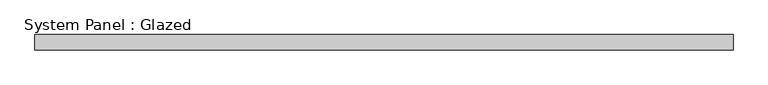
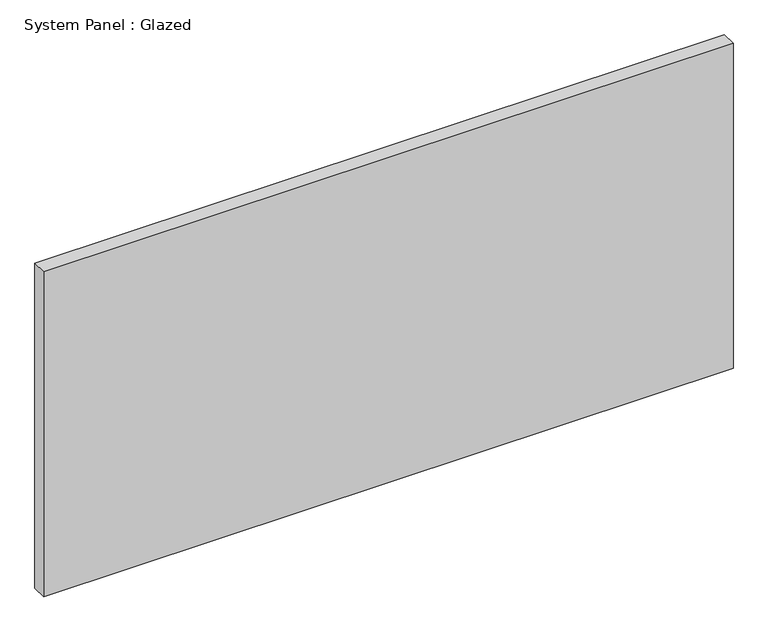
"""IFC4 building model written with IfcOpenShell, lengths in millimetres: plate geometry, System Panel : Glazed."""

import ifcopenshell
import ifcopenshell.guid

model = None  # the IFC model being written
_history = None  # IfcOwnerHistory: only IFC2X3 demands one
_inside = {}  # id of a spatial element -> (the spatial element, [elements in it])
_under = {}  # id of a project, library or spatial element -> (it, [spatial elements below it])
_declared = {}  # id of a project -> (the project, [libraries it declares])
_typed = {}  # id of a type object -> (the type object, [elements of that type])
_made_of = {}  # id of a material, layer set ... -> (it, [elements and type objects made of it])


def new_model(schema):
    """Start an empty IFC model of exactly this schema.

    Asked for "IFC4X3", IfcOpenShell would pick the latest addendum, in which some entities
    have other attributes; the version numbers below select the first issue.
    IFC2X3 requires an IfcOwnerHistory on every rooted entity: one is made here for all.
    """
    global model, _history
    if schema == "IFC4X3":
        model = ifcopenshell.file(schema_version=(4, 3, 0, 0))
    else:
        model = ifcopenshell.file(schema=schema)
    _inside.clear()
    _under.clear()
    _declared.clear()
    _typed.clear()
    _made_of.clear()
    _history = None
    if model.schema == "IFC2X3":
        org = make("IfcOrganization", Name="unknown")
        user = make(
            "IfcPersonAndOrganization",
            ThePerson=make("IfcPerson", FamilyName="unknown"),
            TheOrganization=org,
        )
        app = make(
            "IfcApplication",
            ApplicationDeveloper=org,
            Version="unknown",
            ApplicationFullName="unknown",
            ApplicationIdentifier="unknown",
        )
        _history = make(
            "IfcOwnerHistory",
            OwningUser=user,
            OwningApplication=app,
            ChangeAction="ADDED",
            CreationDate=0,
        )
    return model


def make(cls, **values):
    """One entity of the class cls with the attributes given. An attribute that is None is left unset."""
    return model.create_entity(
        cls, **{name: value for name, value in values.items() if value is not None}
    )


def rooted(cls, **values):
    """An entity with a GlobalId (a new one), such as an element, a storey or a relation."""
    return make(cls, GlobalId=ifcopenshell.guid.new(), OwnerHistory=_history, **values)


def si_unit(unit_type, name, prefix=None):
    """IfcSIUnit, for example si_unit("LENGTHUNIT", "METRE", prefix="MILLI")."""
    return make("IfcSIUnit", UnitType=unit_type, Prefix=prefix, Name=name)


def assignment(units):
    """IfcUnitAssignment: the units of a project."""
    return None if units is None else make("IfcUnitAssignment", Units=units)


def point(xyz):
    """IfcCartesianPoint."""
    return None if xyz is None else make("IfcCartesianPoint", Coordinates=xyz)


def direction(xyz):
    """IfcDirection."""
    return None if xyz is None else make("IfcDirection", DirectionRatios=xyz)


def frame(location, z_axis=None, x_axis=None):
    """IfcAxis2Placement3D, a coordinate frame: its origin and axes. An axis left out is left unset."""
    return make(
        "IfcAxis2Placement3D",
        Location=point(location),
        Axis=direction(z_axis),
        RefDirection=direction(x_axis),
    )


def origin():
    """The frame at (0, 0, 0) with its axes left unset."""
    return frame((0.0, 0.0, 0.0))


def origin_with_axes():
    """The frame at (0, 0, 0) with the z axis (0, 0, 1) and the x axis (1, 0, 0) written out."""
    return frame((0.0, 0.0, 0.0), z_axis=(0.0, 0.0, 1.0), x_axis=(1.0, 0.0, 0.0))


def place(relative_to, where):
    """IfcLocalPlacement: puts the frame where relative to a parent placement (None: the world)."""
    return make(
        "IfcLocalPlacement", PlacementRelTo=relative_to, RelativePlacement=where
    )


def context(
    kind, dimensions, precision=None, world=None, true_north=None, identifier=None
):
    """IfcGeometricRepresentationContext, for example the 3D "Model" context."""
    return make(
        "IfcGeometricRepresentationContext",
        ContextIdentifier=identifier,
        ContextType=kind,
        CoordinateSpaceDimension=dimensions,
        Precision=precision,
        WorldCoordinateSystem=world,
        TrueNorth=true_north,
    )


def project(units=None, contexts=None):
    """IfcProject with its units and contexts."""
    return rooted(
        "IfcProject",
        Name="project",
        RepresentationContexts=contexts,
        UnitsInContext=assignment(units),
    )


def spatial(cls, under=None, at=None, **own):
    """A site, building, storey or space (cls), placed at a placement, below another one or the project."""
    s = rooted(cls, ObjectPlacement=at, **own)
    if under is not None:
        _under.setdefault(under.id(), (under, []))[1].append(s)
    return s


def polyline(points):
    """IfcPolyline through the points."""
    return make("IfcPolyline", Points=[point(p) for p in points])


def outline(outer, holes=None, kind="AREA"):
    """IfcArbitraryClosedProfileDef: a profile drawn as a closed curve; with holes, ...WithVoids."""
    if holes is None:
        return make("IfcArbitraryClosedProfileDef", ProfileType=kind, OuterCurve=outer)
    return make(
        "IfcArbitraryProfileDefWithVoids",
        ProfileType=kind,
        OuterCurve=outer,
        InnerCurves=holes,
    )


def extrude(swept, where, along, depth):
    """IfcExtrudedAreaSolid: the profile swept, set in the frame where, extruded along a direction by depth."""
    return make(
        "IfcExtrudedAreaSolid",
        SweptArea=swept,
        Position=where,
        ExtrudedDirection=direction(along),
        Depth=depth,
    )


def shape(context_of_items, identifier, shape_type, items):
    """IfcShapeRepresentation: the items that make up one representation, for example the "Body"."""
    return make(
        "IfcShapeRepresentation",
        ContextOfItems=context_of_items,
        RepresentationIdentifier=identifier,
        RepresentationType=shape_type,
        Items=items,
    )


def source(mapping_origin, context_of_items, identifier, shape_type, items):
    """IfcRepresentationMap: a shape defined once, which mapped items show again and again."""
    return make(
        "IfcRepresentationMap",
        MappingOrigin=mapping_origin,
        MappedRepresentation=shape(context_of_items, identifier, shape_type, items),
    )


def transform(
    local_origin,
    x_axis=None,
    y_axis=None,
    z_axis=None,
    scale=None,
    scale2=None,
    scale3=None,
    uniform=True,
):
    """IfcCartesianTransformationOperator3D, or its non-uniform kind. x_axis, y_axis, z_axis: its Axis1, 2, 3."""
    if uniform:
        return make(
            "IfcCartesianTransformationOperator3D",
            Axis1=direction(x_axis),
            Axis2=direction(y_axis),
            LocalOrigin=point(local_origin),
            Scale=scale,
            Axis3=direction(z_axis),
        )
    return make(
        "IfcCartesianTransformationOperator3DnonUniform",
        Axis1=direction(x_axis),
        Axis2=direction(y_axis),
        LocalOrigin=point(local_origin),
        Scale=scale,
        Axis3=direction(z_axis),
        Scale2=scale2,
        Scale3=scale3,
    )


def mapped(mapping_source, mapping_target):
    """IfcMappedItem: shows the shape of a source again, moved by a transform."""
    return make(
        "IfcMappedItem", MappingSource=mapping_source, MappingTarget=mapping_target
    )


def made_of(thing, what):
    """Note that an element or type object is made of a material, layer set ...; save() writes the relation."""
    if what is not None:
        _made_of.setdefault(what.id(), (what, []))[1].append(thing)
    return thing


def element(
    cls,
    number,
    at=None,
    inside=None,
    cuts=None,
    type_object=None,
    material=None,
    context=None,
    identifier="Body",
    shape_type=None,
    held_by="IfcProductDefinitionShape",
    body=None,
    shapes=None,
    **own,
):
    """One element of the class cls, such as IfcWall. Its Tag is "e" and its number.

    at: its placement. inside: the storey or other place that contains it. cuts: it is an
    opening in that element (IfcRelVoidsElement). A single representation is given by context,
    identifier, shape_type and body (its items); several are given by shapes. held_by: the class
    of the entity that holds the representations. save() writes the other relations.
    """
    e = rooted(cls, Tag="e%d" % number, ObjectPlacement=at, **own)
    if body is not None:
        shapes = [shape(context, identifier, shape_type, body)]
    if shapes is not None:
        e.Representation = make(held_by, Representations=shapes)
    if inside is not None:
        _inside.setdefault(inside.id(), (inside, []))[1].append(e)
    if cuts is not None:
        rooted(
            "IfcRelVoidsElement", RelatingBuildingElement=cuts, RelatedOpeningElement=e
        )
    if type_object is not None:
        _typed.setdefault(type_object.id(), (type_object, []))[1].append(e)
    return made_of(e, material)


def aggregate(whole, parts):
    """IfcRelAggregates: a whole, such as a stair, and the parts it consists of."""
    return rooted("IfcRelAggregates", RelatingObject=whole, RelatedObjects=parts)


def save(model, path):
    """Write the relations noted so far, then the file.

    IfcRelAggregates (storeys below a building ...), IfcRelContainedInSpatialStructure (elements
    in a storey), IfcRelDefinesByType, IfcRelAssociatesMaterial and IfcRelDeclares: one each for
    every whole, place, type object, material and project.
    """
    for whole, parts in _under.values():
        aggregate(whole, parts)
    for where, things in _inside.values():
        rooted(
            "IfcRelContainedInSpatialStructure",
            RelatedElements=things,
            RelatingStructure=where,
        )
    for kind, things in _typed.values():
        rooted("IfcRelDefinesByType", RelatedObjects=things, RelatingType=kind)
    for what, things in _made_of.values():
        rooted("IfcRelAssociatesMaterial", RelatedObjects=things, RelatingMaterial=what)
    for by, libraries in _declared.values():
        rooted("IfcRelDeclares", RelatingContext=by, RelatedDefinitions=libraries)
    model.write(path)


def system_panel_glazed_3957fabc(model_context):
    return source(origin(), model_context, "Body", "SweptSolid", [
        extrude(outline(polyline([(586.3065357, 19.05), (-586.3065357, 19.05), (-586.3065357, 44.45), (586.3065357, 44.45), (586.3065357, 19.05)])), origin_with_axes(), (0.0, 0.0, 1.0), 584.2),
    ])


if __name__ == "__main__":
    model = new_model("IFC4")
    model_context = context("Model", 3, world=origin())
    ifc_project = project(units=[si_unit("LENGTHUNIT", "METRE", prefix="MILLI")], contexts=[model_context])
    site = spatial("IfcSite", under=ifc_project)
    building = spatial("IfcBuilding", under=site)
    placement = place(None, origin())
    system_panel_glazed_shape = system_panel_glazed_3957fabc(model_context)
    element("IfcPlate", 1, ObjectType="System Panel : Glazed", at=placement, inside=building, context=model_context, shape_type="MappedRepresentation", body=[
        mapped(system_panel_glazed_shape, transform((0.0, 0.0, 0.0), x_axis=(1.0, 0.0, 0.0), y_axis=(0.0, 1.0, 0.0), z_axis=(0.0, 0.0, 1.0))),
    ])
    save(model, "model.ifc")
